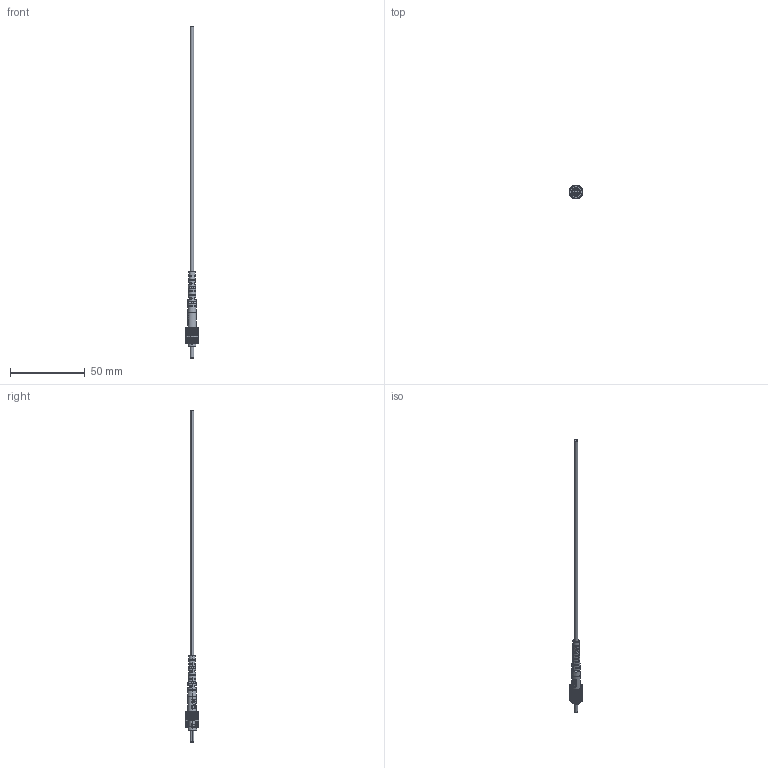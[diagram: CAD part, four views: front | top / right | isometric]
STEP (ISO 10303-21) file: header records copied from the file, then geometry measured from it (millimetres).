
FILE_DESCRIPTION (( 'STEP AP214' ), '1' );
FILE_NAME ('PRB-PF1.STEP', '2016-01-01T00:31:16', ( 'Daryl' ), ( 'Microsoft' ), 'SwSTEP 2.0', 'SolidWorks 2014', '' );
FILE_SCHEMA (( 'AUTOMOTIVE_DESIGN' ));
Length unit declared in the file: millimetre
Products named in the file (1): PRB-PF1
Bounding box: 9.02 x 9.02 x 222 mm (x, y, z)
Surface area: 3225 mm2 (no closed solid volume)
Topology: 0 solids, 7 shells, 567 faces, 1714 edges, 1132 vertices
Faces by surface type: plane 332, cylinder 207, bspline 24, cone 2, torus 2
Entity records: 26893 total; most frequent: CARTESIAN_POINT 5508, ORIENTED_EDGE 3311, DIRECTION 2972, EDGE_CURVE 1714, VERTEX_POINT 1132, VECTOR 1104, LINE 1104, AXIS2_PLACEMENT_3D 934
